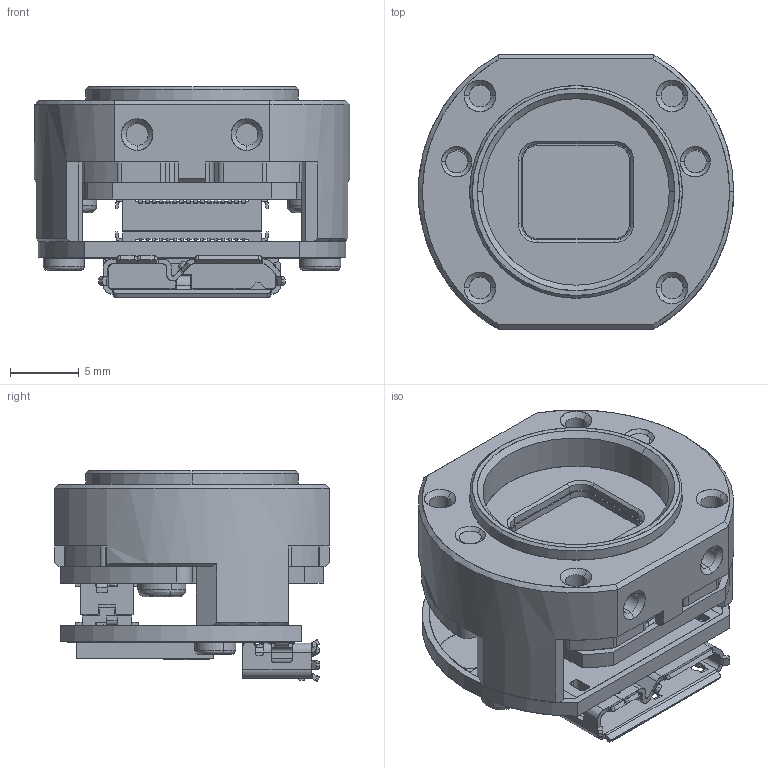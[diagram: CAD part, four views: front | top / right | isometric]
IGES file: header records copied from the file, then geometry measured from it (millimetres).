
Start section: SolidWorks IGES file using analytic representation for surfaces
Global section: file name: C:\Desktop\STC-S133UVC-BL.IGS; native system: SolidWorks 2017; preprocessor: SolidWorks 2017; author: kubota; date: 171110.110830; units: millimetre
Bounding box: 23 x 20 x 15.38 mm (x, y, z)
Surface area: 5955.4 mm2 (no closed solid volume)
Topology: 0 solids, 0 shells, 3894 faces, 26841 edges, 26837 vertices
Faces by surface type: bspline 3069, revolution 825
